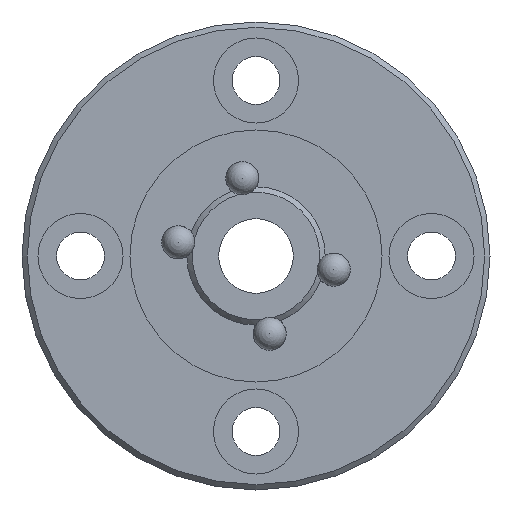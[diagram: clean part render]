
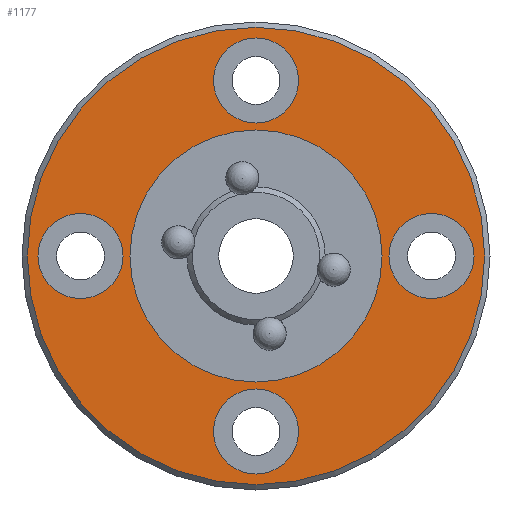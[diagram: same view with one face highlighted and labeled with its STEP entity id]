
A CAD part, left-side view. The second image highlights one B-rep face of the part: STEP entity #1177.
In plain terms, the highlighted planar face has unit normal (-1, 0, 0).
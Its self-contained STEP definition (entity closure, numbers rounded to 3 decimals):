
#53=PLANE('',#1324);
#326=ORIENTED_EDGE('',*,*,#539,.T.);
#327=ORIENTED_EDGE('',*,*,#540,.T.);
#328=ORIENTED_EDGE('',*,*,#541,.T.);
#329=ORIENTED_EDGE('',*,*,#542,.T.);
#330=ORIENTED_EDGE('',*,*,#543,.T.);
#331=ORIENTED_EDGE('',*,*,#537,.T.);
#537=EDGE_CURVE('',#660,#660,#754,.T.);
#539=EDGE_CURVE('',#662,#662,#756,.T.);
#540=EDGE_CURVE('',#663,#663,#757,.T.);
#541=EDGE_CURVE('',#664,#664,#758,.T.);
#542=EDGE_CURVE('',#665,#665,#759,.T.);
#543=EDGE_CURVE('',#666,#666,#760,.T.);
#660=VERTEX_POINT('',#2407);
#662=VERTEX_POINT('',#2412);
#663=VERTEX_POINT('',#2414);
#664=VERTEX_POINT('',#2416);
#665=VERTEX_POINT('',#2418);
#666=VERTEX_POINT('',#2420);
#754=CIRCLE('',#1322,21.5);
#756=CIRCLE('',#1325,11.85);
#757=CIRCLE('',#1326,4.);
#758=CIRCLE('',#1327,4.);
#759=CIRCLE('',#1328,4.);
#760=CIRCLE('',#1329,4.);
#863=EDGE_LOOP('',(#326));
#864=EDGE_LOOP('',(#327));
#865=EDGE_LOOP('',(#328));
#866=EDGE_LOOP('',(#329));
#867=EDGE_LOOP('',(#330));
#868=EDGE_LOOP('',(#331));
#1031=FACE_BOUND('',#863,.T.);
#1032=FACE_BOUND('',#864,.T.);
#1033=FACE_BOUND('',#865,.T.);
#1034=FACE_BOUND('',#866,.T.);
#1035=FACE_BOUND('',#867,.T.);
#1036=FACE_BOUND('',#868,.T.);
#1177=ADVANCED_FACE('',(#1031,#1032,#1033,#1034,#1035,#1036),#53,.F.);
#1322=AXIS2_PLACEMENT_3D('',#2406,#1581,#1582);
#1324=AXIS2_PLACEMENT_3D('',#2410,#1585,#1586);
#1325=AXIS2_PLACEMENT_3D('',#2411,#1587,#1588);
#1326=AXIS2_PLACEMENT_3D('',#2413,#1589,#1590);
#1327=AXIS2_PLACEMENT_3D('',#2415,#1591,#1592);
#1328=AXIS2_PLACEMENT_3D('',#2417,#1593,#1594);
#1329=AXIS2_PLACEMENT_3D('',#2419,#1595,#1596);
#1581=DIRECTION('',(-1.,0.,0.));
#1582=DIRECTION('',(0.,0.,1.));
#1585=DIRECTION('',(1.,0.,0.));
#1586=DIRECTION('',(0.,0.,-1.));
#1587=DIRECTION('',(1.,0.,0.));
#1588=DIRECTION('',(0.,0.,-1.));
#1589=DIRECTION('',(1.,0.,0.));
#1590=DIRECTION('',(0.,0.,1.));
#1591=DIRECTION('',(1.,0.,0.));
#1592=DIRECTION('',(0.,0.,1.));
#1593=DIRECTION('',(1.,0.,0.));
#1594=DIRECTION('',(0.,-1.,0.));
#1595=DIRECTION('',(1.,0.,0.));
#1596=DIRECTION('',(0.,-1.,0.));
#2406=CARTESIAN_POINT('',(-18.,0.,0.));
#2407=CARTESIAN_POINT('',(-18.,0.,21.5));
#2410=CARTESIAN_POINT('',(-18.,21.5,0.));
#2411=CARTESIAN_POINT('',(-18.,0.,0.));
#2412=CARTESIAN_POINT('',(-18.,0.,-11.85));
#2413=CARTESIAN_POINT('',(-18.,0.,16.5));
#2414=CARTESIAN_POINT('',(-18.,0.,20.5));
#2415=CARTESIAN_POINT('',(-18.,0.,-16.5));
#2416=CARTESIAN_POINT('',(-18.,0.,-12.5));
#2417=CARTESIAN_POINT('',(-18.,-16.5,0.));
#2418=CARTESIAN_POINT('',(-18.,-20.5,0.));
#2419=CARTESIAN_POINT('',(-18.,16.5,0.));
#2420=CARTESIAN_POINT('',(-18.,12.5,0.));
